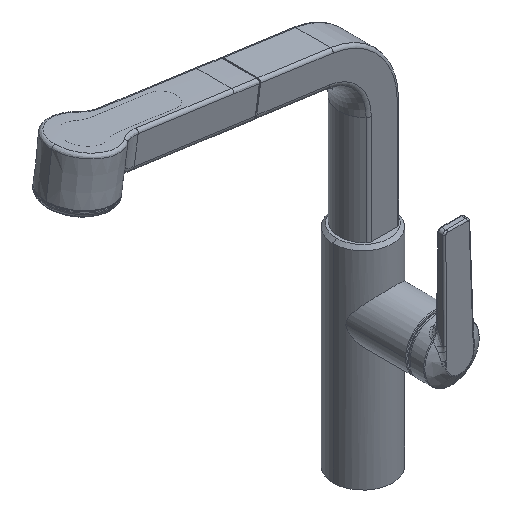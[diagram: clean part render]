
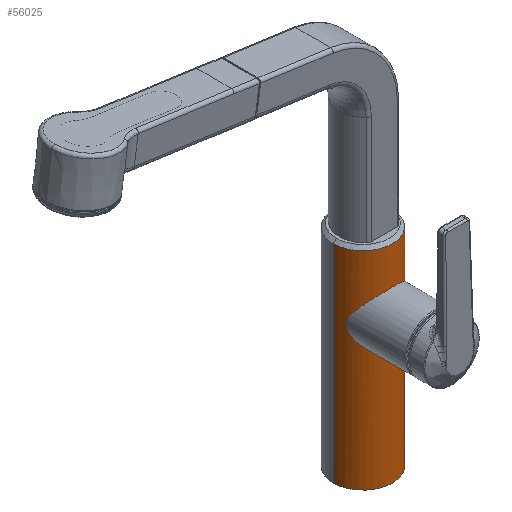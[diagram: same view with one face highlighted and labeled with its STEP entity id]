
A CAD part, isometric view. The second image highlights one B-rep face of the part: STEP entity #56025.
In plain terms, the highlighted cylindrical face has radius 22.5 mm (diameter 45 mm), a partial arc.
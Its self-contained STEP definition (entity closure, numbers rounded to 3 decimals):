
#5=CARTESIAN_POINT('',(0.,0.,49.6));
#6=DIRECTION('',(0.,0.,-1.));
#7=DIRECTION('',(1.,0.,0.));
#8=AXIS2_PLACEMENT_3D('',#5,#6,#7);
#19=DIRECTION('',(0.,0.,1.));
#20=VECTOR('',#19,157.6);
#21=CARTESIAN_POINT('',(-22.5,0.,-108.));
#22=LINE('',#21,#20);
#23=DIRECTION('',(0.,0.,1.));
#24=VECTOR('',#23,157.6);
#25=CARTESIAN_POINT('',(22.5,0.,-108.));
#26=LINE('',#25,#24);
#27=CARTESIAN_POINT('',(21.,-8.078,0.));
#28=CARTESIAN_POINT('',(21.,-8.078,0.427));
#29=CARTESIAN_POINT('',(20.974,-8.145,1.316));
#30=CARTESIAN_POINT('',(20.835,-8.5,2.772));
#31=CARTESIAN_POINT('',(20.574,-9.121,4.311));
#32=CARTESIAN_POINT('',(20.171,-9.99,5.929));
#33=CARTESIAN_POINT('',(19.587,-11.101,7.649));
#34=CARTESIAN_POINT('',(18.793,-12.412,9.449));
#35=CARTESIAN_POINT('',(17.683,-13.966,11.413));
#36=CARTESIAN_POINT('',(16.175,-15.704,13.48));
#37=CARTESIAN_POINT('',(14.318,-17.422,15.444));
#38=CARTESIAN_POINT('',(12.181,-18.976,17.175));
#39=CARTESIAN_POINT('',(10.026,-20.191,18.507));
#40=CARTESIAN_POINT('',(7.838,-21.134,19.53));
#41=CARTESIAN_POINT('',(5.639,-21.821,20.272));
#42=CARTESIAN_POINT('',(3.423,-22.276,20.76));
#43=CARTESIAN_POINT('',(1.196,-22.504,21.004));
#44=CARTESIAN_POINT('',(-0.965,-22.515,21.016));
#45=CARTESIAN_POINT('',(-3.189,-22.311,20.797));
#46=CARTESIAN_POINT('',(-5.41,-21.879,20.334));
#47=CARTESIAN_POINT('',(-7.599,-21.22,19.623));
#48=CARTESIAN_POINT('',(-9.79,-20.308,18.634));
#49=CARTESIAN_POINT('',(-11.971,-19.104,17.315));
#50=CARTESIAN_POINT('',(-13.9,-17.742,15.802));
#51=CARTESIAN_POINT('',(-15.574,-16.286,14.15));
#52=CARTESIAN_POINT('',(-16.984,-14.801,12.414));
#53=CARTESIAN_POINT('',(-18.137,-13.354,10.652));
#54=CARTESIAN_POINT('',(-19.06,-11.99,8.885));
#55=CARTESIAN_POINT('',(-19.753,-10.797,7.2));
#56=CARTESIAN_POINT('',(-20.267,-9.789,5.579));
#57=CARTESIAN_POINT('',(-20.623,-9.007,4.056));
#58=CARTESIAN_POINT('',(-20.85,-8.461,2.63));
#59=CARTESIAN_POINT('',(-20.974,-8.145,1.287));
#60=CARTESIAN_POINT('',(-21.,-8.078,0.423));
#61=CARTESIAN_POINT('',(-21.,-8.078,0.));
#63=CARTESIAN_POINT('',(-21.,-8.078,0.));
#64=CARTESIAN_POINT('',(-21.,-8.078,
-0.422));
#65=CARTESIAN_POINT('',(-20.974,-8.145,-1.286));
#66=CARTESIAN_POINT('',(-20.85,-8.46,-2.628));
#67=CARTESIAN_POINT('',(-20.623,-9.006,-4.054));
#68=CARTESIAN_POINT('',(-20.268,-9.788,-5.578));
#69=CARTESIAN_POINT('',(-19.754,-10.796,-7.198));
#70=CARTESIAN_POINT('',(-19.061,-11.988,-8.883));
#71=CARTESIAN_POINT('',(-18.138,-13.353,-10.65));
#72=CARTESIAN_POINT('',(-16.983,-14.802,-12.415));
#73=CARTESIAN_POINT('',(-15.57,-16.29,-14.154));
#74=CARTESIAN_POINT('',(-13.893,-17.747,-15.808));
#75=CARTESIAN_POINT('',(-11.962,-19.109,-17.321));
#76=CARTESIAN_POINT('',(-9.782,-20.312,-18.638));
#77=CARTESIAN_POINT('',(-7.592,-21.222,-19.626));
#78=CARTESIAN_POINT('',(-5.404,-21.881,-20.335));
#79=CARTESIAN_POINT('',(-3.183,-22.312,-20.798));
#80=CARTESIAN_POINT('',(-0.961,-22.515,
-21.016));
#81=CARTESIAN_POINT('',(1.201,-22.503,-21.004));
#82=CARTESIAN_POINT('',(3.427,-22.276,-20.76));
#83=CARTESIAN_POINT('',(5.643,-21.82,-20.271));
#84=CARTESIAN_POINT('',(7.842,-21.132,-19.529));
#85=CARTESIAN_POINT('',(10.027,-20.19,-18.506));
#86=CARTESIAN_POINT('',(12.186,-18.973,-17.172));
#87=CARTESIAN_POINT('',(14.323,-17.419,-15.44));
#88=CARTESIAN_POINT('',(16.178,-15.7,-13.476));
#89=CARTESIAN_POINT('',(17.684,-13.964,-11.411));
#90=CARTESIAN_POINT('',(18.793,-12.411,-9.448));
#91=CARTESIAN_POINT('',(19.588,-11.099,-7.648));
#92=CARTESIAN_POINT('',(20.171,-9.989,-5.928));
#93=CARTESIAN_POINT('',(20.574,-9.121,-4.31));
#94=CARTESIAN_POINT('',(20.835,-8.5,-2.772));
#95=CARTESIAN_POINT('',(20.974,-8.146,-1.318));
#96=CARTESIAN_POINT('',(21.,-8.078,-0.428));
#97=CARTESIAN_POINT('',(21.,-8.078,0.));
#99=CARTESIAN_POINT('',(0.,0.,-108.));
#100=DIRECTION('',(0.,0.,-1.));
#101=DIRECTION('',(1.,0.,0.));
#102=AXIS2_PLACEMENT_3D('',#99,#100,#101);
#47784=CARTESIAN_POINT('',(-22.5,0.,49.6));
#47786=VERTEX_POINT('',#47784);
#47789=CARTESIAN_POINT('',(22.5,0.,49.6));
#47790=VERTEX_POINT('',#47789);
#47791=CARTESIAN_POINT('',(-22.5,0.,-108.));
#47792=VERTEX_POINT('',#47791);
#47793=CARTESIAN_POINT('',(22.5,0.,-108.));
#47794=VERTEX_POINT('',#47793);
#47891=VERTEX_POINT('',#27);
#47892=VERTEX_POINT('',#61);
#56007=CARTESIAN_POINT('',(0.,0.,0.));
#56008=DIRECTION('',(0.,0.,1.));
#56009=DIRECTION('',(-1.,0.,0.));
#56010=AXIS2_PLACEMENT_3D('',#56007,#56008,#56009);
#56011=CYLINDRICAL_SURFACE('',#56010,22.5);
#56013=ORIENTED_EDGE('',*,*,#56012,.T.);
#56014=ORIENTED_EDGE('',*,*,#55998,.T.);
#56015=ORIENTED_EDGE('',*,*,#55973,.F.);
#56016=ORIENTED_EDGE('',*,*,#56002,.F.);
#56017=EDGE_LOOP('',(#56013,#56014,#56015,#56016));
#56018=FACE_OUTER_BOUND('',#56017,.F.);
#56020=ORIENTED_EDGE('',*,*,#56019,.T.);
#56022=ORIENTED_EDGE('',*,*,#56021,.T.);
#56023=EDGE_LOOP('',(#56020,#56022));
#56024=FACE_BOUND('',#56023,.F.);
#56025=ADVANCED_FACE('',(#56018,#56024),#56011,.T.);
#9=CIRCLE('',#8,22.5);
#62=B_SPLINE_CURVE_WITH_KNOTS('',3,(#27,#28,#29,#30,#31,#32,#33,#34,#35,#36,#37,
#38,#39,#40,#41,#42,#43,#44,#45,#46,#47,#48,#49,#50,#51,#52,#53,#54,#55,#56,#57,
#58,#59,#60,#61),.UNSPECIFIED.,.F.,.F.,(4,1,1,1,1,1,1,1,1,1,1,1,1,1,1,1,1,1,1,1,
1,1,1,1,1,1,1,1,1,1,1,1,4),(0.,0.031,0.063,0.094,0.125,0.156,
0.188,0.219,0.25,0.281,0.313,0.344,0.375,0.406,
0.438,0.469,0.5,0.531,0.563,0.594,0.625,0.656,
0.688,0.719,0.75,0.781,0.813,0.844,0.875,0.906,
0.938,0.969,1.),.UNSPECIFIED.);
#98=B_SPLINE_CURVE_WITH_KNOTS('',3,(#63,#64,#65,#66,#67,#68,#69,#70,#71,#72,#73,
#74,#75,#76,#77,#78,#79,#80,#81,#82,#83,#84,#85,#86,#87,#88,#89,#90,#91,#92,#93,
#94,#95,#96,#97),.UNSPECIFIED.,.F.,.F.,(4,1,1,1,1,1,1,1,1,1,1,1,1,1,1,1,1,1,1,1,
1,1,1,1,1,1,1,1,1,1,1,1,4),(0.,0.031,0.063,0.094,0.125,0.156,
0.188,0.219,0.25,0.281,0.313,0.344,0.375,0.406,
0.438,0.469,0.5,0.531,0.563,0.594,0.625,0.656,
0.688,0.719,0.75,0.781,0.813,0.844,0.875,0.906,
0.938,0.969,1.),.UNSPECIFIED.);
#103=CIRCLE('',#102,22.5);
#55973=EDGE_CURVE('',#47790,#47786,#9,.T.);
#55998=EDGE_CURVE('',#47792,#47786,#22,.T.);
#56002=EDGE_CURVE('',#47794,#47790,#26,.T.);
#56012=EDGE_CURVE('',#47794,#47792,#103,.T.);
#56019=EDGE_CURVE('',#47891,#47892,#62,.T.);
#56021=EDGE_CURVE('',#47892,#47891,#98,.T.);
